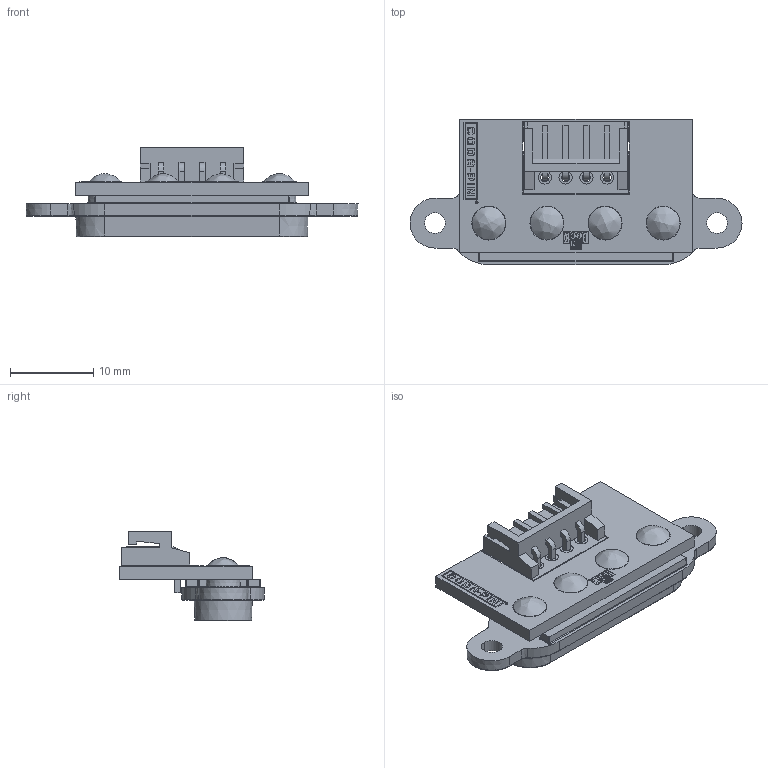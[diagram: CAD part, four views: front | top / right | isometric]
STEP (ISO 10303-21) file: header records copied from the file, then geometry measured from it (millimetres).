
FILE_DESCRIPTION (( 'STEP AP214' ), '1' );
FILE_NAME ('Swift-Dock-4PC-L.STEP', '2021-08-06T14:34:33', ( '' ), ( '' ), 'SwSTEP 2.0', 'SolidWorks 2021', '' );
FILE_SCHEMA (( 'AUTOMOTIVE_DESIGN' ));
Length unit declared in the file: millimetre
Products named in the file (8): land body_4 hole_3; SD4P_land Array_4way_WITH CON_2; Coda_IPP2S-A_contact land_9; PCB_4 way_2; PCB_4 way_assy_WITH CON_2; S4B-EH_2; Swift-Dock-4PC-L; solder spill_10
Assembly tree (13 placements, depth 4):
  Swift-Dock-4PC-L
    SD4P_land Array_4way_WITH CON_2
      Coda_IPP2S-A_contact land_9  x4
      land body_4 hole_3
      PCB_4 way_assy_WITH CON_2
        PCB_4 way_2
        S4B-EH_2
    solder spill_10  x4
Bounding box: 40 x 17.5 x 10.8 mm (x, y, z)
Volume: 1954.1 mm3; surface area: 3211.8 mm2
Topology: 11 solids, 11 shells, 771 faces, 1875 edges, 1196 vertices
Faces by surface type: plane 395, cylinder 199, bspline 89, cone 88
Entity records: 26335 total; most frequent: CARTESIAN_POINT 5999, ORIENTED_EDGE 3446, DIRECTION 3251, EDGE_CURVE 1723, LINE 1153, VECTOR 1153, VERTEX_POINT 1109, AXIS2_PLACEMENT_3D 1049
